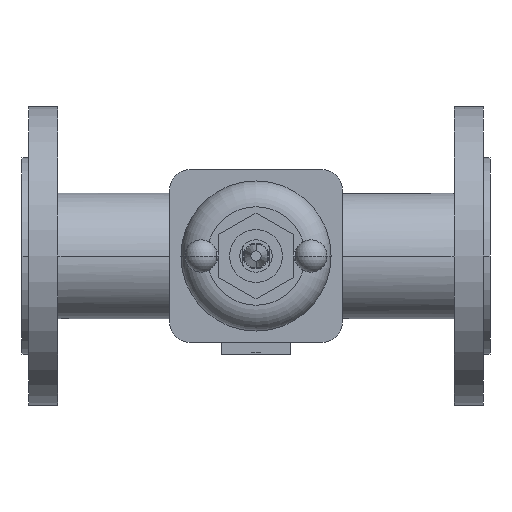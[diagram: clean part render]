
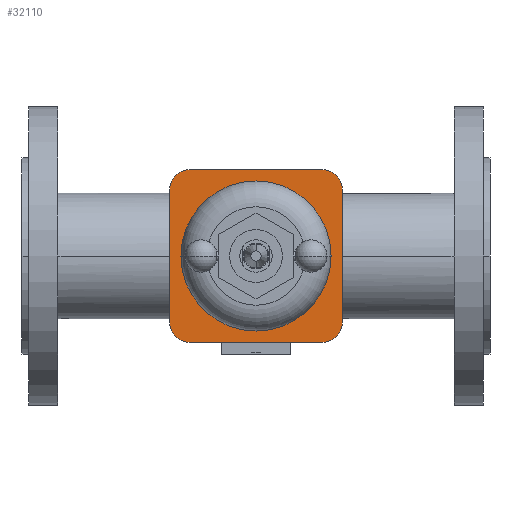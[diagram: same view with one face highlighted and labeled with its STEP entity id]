
A CAD part, front view. The second image highlights one B-rep face of the part: STEP entity #32110.
In plain terms, the highlighted planar face has unit normal (0, -1, 0).
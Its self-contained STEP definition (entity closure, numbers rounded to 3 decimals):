
#8800=CARTESIAN_POINT('',(191.5,-111.15,0.));
#8810=VERTEX_POINT('',#8800);
#8890=CARTESIAN_POINT('',(98.5,-111.15,0.));
#8900=VERTEX_POINT('',#8890);
#8930=CARTESIAN_POINT('',(145.,-111.15,0.));
#8940=DIRECTION('',(0.,-1.,0.));
#8950=DIRECTION('',(-1.,0.,0.));
#8960=AXIS2_PLACEMENT_3D('',#8930,#8940,#8950);
#8970=CIRCLE('',#8960,46.5);
#8980=EDGE_CURVE('',#8810,#8900,#8970,.T.);
#31310=CARTESIAN_POINT('',(86.,-111.15,0.));
#31320=DIRECTION('',(0.,-1.,0.));
#31330=DIRECTION('',(-1.,0.,0.));
#31340=AXIS2_PLACEMENT_3D('',#31310,#31320,#31330);
#31350=PLANE('',#31340);
#31360=CARTESIAN_POINT('',(104.341,-111.15,40.659));
#31370=DIRECTION('',(0.,-1.,0.));
#31380=DIRECTION('',(-1.,0.,0.));
#31390=AXIS2_PLACEMENT_3D('',#31360,#31370,#31380);
#31400=CIRCLE('',#31390,13.);
#31410=CARTESIAN_POINT('',(104.341,-111.15,53.659));
#31420=VERTEX_POINT('',#31410);
#31430=CARTESIAN_POINT('',(91.341,-111.15,40.659));
#31440=VERTEX_POINT('',#31430);
#31450=EDGE_CURVE('',#31420,#31440,#31400,.T.);
#31460=ORIENTED_EDGE('',*,*,#31450,.T.);
#31470=CARTESIAN_POINT('',(95.171,-111.15,53.659));
#31480=DIRECTION('',(-1.,0.,0.));
#31490=VECTOR('',#31480,1.);
#31500=LINE('',#31470,#31490);
#31510=CARTESIAN_POINT('',(185.659,-111.15,53.659));
#31520=VERTEX_POINT('',#31510);
#31530=EDGE_CURVE('',#31520,#31420,#31500,.T.);
#31540=ORIENTED_EDGE('',*,*,#31530,.T.);
#31550=CARTESIAN_POINT('',(185.659,-111.15,40.659));
#31560=DIRECTION('',(0.,-1.,0.));
#31570=DIRECTION('',(0.,0.,1.));
#31580=AXIS2_PLACEMENT_3D('',#31550,#31560,#31570);
#31590=CIRCLE('',#31580,13.);
#31600=CARTESIAN_POINT('',(198.659,-111.15,40.659));
#31610=VERTEX_POINT('',#31600);
#31620=EDGE_CURVE('',#31610,#31520,#31590,.T.);
#31630=ORIENTED_EDGE('',*,*,#31620,.T.);
#31640=CARTESIAN_POINT('',(198.659,-111.15,20.329));
#31650=DIRECTION('',(0.,0.,1.));
#31660=VECTOR('',#31650,1.);
#31670=LINE('',#31640,#31660);
#31680=CARTESIAN_POINT('',(198.659,-111.15,-40.659));
#31690=VERTEX_POINT('',#31680);
#31700=EDGE_CURVE('',#31690,#31610,#31670,.T.);
#31710=ORIENTED_EDGE('',*,*,#31700,.T.);
#31720=CARTESIAN_POINT('',(185.659,-111.15,-40.659));
#31730=DIRECTION('',(0.,-1.,0.));
#31740=DIRECTION('',(1.,0.,0.));
#31750=AXIS2_PLACEMENT_3D('',#31720,#31730,#31740);
#31760=CIRCLE('',#31750,13.);
#31770=CARTESIAN_POINT('',(185.659,-111.15,-53.659));
#31780=VERTEX_POINT('',#31770);
#31790=EDGE_CURVE('',#31780,#31690,#31760,.T.);
#31800=ORIENTED_EDGE('',*,*,#31790,.T.);
#31810=CARTESIAN_POINT('',(135.829,-111.15,-53.659));
#31820=DIRECTION('',(1.,0.,0.));
#31830=VECTOR('',#31820,1.);
#31840=LINE('',#31810,#31830);
#31850=CARTESIAN_POINT('',(104.341,-111.15,-53.659));
#31860=VERTEX_POINT('',#31850);
#31870=EDGE_CURVE('',#31860,#31780,#31840,.T.);
#31880=ORIENTED_EDGE('',*,*,#31870,.T.);
#31890=CARTESIAN_POINT('',(104.341,-111.15,-40.659));
#31900=DIRECTION('',(0.,-1.,0.));
#31910=DIRECTION('',(0.,0.,-1.));
#31920=AXIS2_PLACEMENT_3D('',#31890,#31900,#31910);
#31930=CIRCLE('',#31920,13.);
#31940=CARTESIAN_POINT('',(91.341,-111.15,-40.659));
#31950=VERTEX_POINT('',#31940);
#31960=EDGE_CURVE('',#31950,#31860,#31930,.T.);
#31970=ORIENTED_EDGE('',*,*,#31960,.T.);
#31980=CARTESIAN_POINT('',(91.341,-111.15,-20.329));
#31990=DIRECTION('',(0.,0.,-1.));
#32000=VECTOR('',#31990,1.);
#32010=LINE('',#31980,#32000);
#32020=EDGE_CURVE('',#31440,#31950,#32010,.T.);
#32030=ORIENTED_EDGE('',*,*,#32020,.T.);
#32040=EDGE_LOOP('',(#32030,#31970,#31880,#31800,#31710,#31630,#31540,
#31460));
#32050=FACE_OUTER_BOUND('',#32040,.T.);
#32060=EDGE_CURVE('',#8900,#8810,#8970,.T.);
#32070=ORIENTED_EDGE('',*,*,#32060,.F.);
#32080=ORIENTED_EDGE('',*,*,#8980,.F.);
#32090=EDGE_LOOP('',(#32080,#32070));
#32100=FACE_BOUND('',#32090,.T.);
#32110=ADVANCED_FACE('',(#32050,#32100),#31350,.T.);
